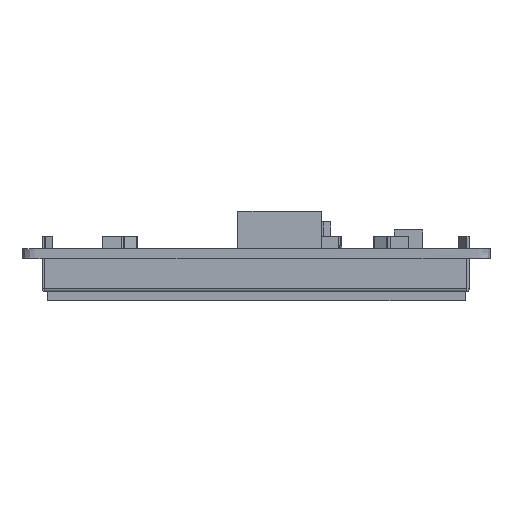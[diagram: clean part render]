
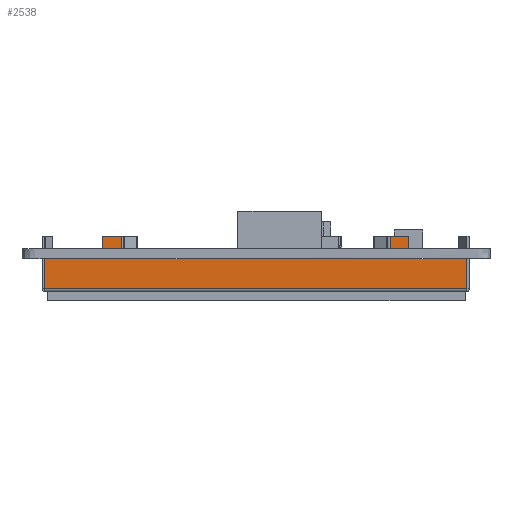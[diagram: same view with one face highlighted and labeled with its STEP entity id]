
A CAD part, left-side view. The second image highlights one B-rep face of the part: STEP entity #2538.
In plain terms, the highlighted planar face has unit normal (-1, 0, 0).
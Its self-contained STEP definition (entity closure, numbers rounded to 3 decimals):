
#2538=ADVANCED_FACE('',(#4645),#3493,.F.);
#3493=PLANE('',#25617);
#4645=FACE_OUTER_BOUND('',#5844,.T.);
#5844=EDGE_LOOP('',(#11681,#11682,#11683,#11684,#11685,#11686,#11687,#11688,
#11689,#11690,#11691,#11692,#11693,#11694,#11695,#11696));
#11681=ORIENTED_EDGE('',*,*,#17913,.T.);
#11682=ORIENTED_EDGE('',*,*,#17914,.F.);
#11683=ORIENTED_EDGE('',*,*,#17915,.F.);
#11684=ORIENTED_EDGE('',*,*,#17916,.T.);
#11685=ORIENTED_EDGE('',*,*,#17917,.T.);
#11686=ORIENTED_EDGE('',*,*,#17918,.T.);
#11687=ORIENTED_EDGE('',*,*,#17911,.T.);
#11688=ORIENTED_EDGE('',*,*,#17919,.F.);
#11689=ORIENTED_EDGE('',*,*,#17920,.T.);
#11690=ORIENTED_EDGE('',*,*,#17921,.F.);
#11691=ORIENTED_EDGE('',*,*,#17922,.F.);
#11692=ORIENTED_EDGE('',*,*,#17923,.T.);
#11693=ORIENTED_EDGE('',*,*,#17905,.T.);
#11694=ORIENTED_EDGE('',*,*,#17924,.F.);
#11695=ORIENTED_EDGE('',*,*,#17925,.F.);
#11696=ORIENTED_EDGE('',*,*,#17926,.T.);
#14716=VERTEX_POINT('',#37798);
#14717=VERTEX_POINT('',#37799);
#14722=VERTEX_POINT('',#37810);
#14723=VERTEX_POINT('',#37812);
#14724=VERTEX_POINT('',#37816);
#14725=VERTEX_POINT('',#37817);
#14726=VERTEX_POINT('',#37819);
#14727=VERTEX_POINT('',#37821);
#14728=VERTEX_POINT('',#37823);
#14729=VERTEX_POINT('',#37825);
#14730=VERTEX_POINT('',#37828);
#14731=VERTEX_POINT('',#37830);
#14732=VERTEX_POINT('',#37832);
#14733=VERTEX_POINT('',#37834);
#14734=VERTEX_POINT('',#37837);
#14735=VERTEX_POINT('',#37839);
#17905=EDGE_CURVE('',#14716,#14717,#20806,.T.);
#17911=EDGE_CURVE('',#14723,#14722,#20812,.T.);
#17913=EDGE_CURVE('',#14724,#14725,#20814,.T.);
#17914=EDGE_CURVE('',#14726,#14725,#20815,.T.);
#17915=EDGE_CURVE('',#14727,#14726,#20816,.T.);
#17916=EDGE_CURVE('',#14727,#14728,#20817,.T.);
#17917=EDGE_CURVE('',#14728,#14729,#20818,.T.);
#17918=EDGE_CURVE('',#14729,#14723,#20819,.T.);
#17919=EDGE_CURVE('',#14730,#14722,#20820,.T.);
#17920=EDGE_CURVE('',#14730,#14731,#20821,.T.);
#17921=EDGE_CURVE('',#14732,#14731,#20822,.T.);
#17922=EDGE_CURVE('',#14733,#14732,#20823,.T.);
#17923=EDGE_CURVE('',#14733,#14716,#20824,.T.);
#17924=EDGE_CURVE('',#14734,#14717,#20825,.T.);
#17925=EDGE_CURVE('',#14735,#14734,#20826,.T.);
#17926=EDGE_CURVE('',#14735,#14724,#20827,.T.);
#20806=LINE('',#37797,#23622);
#20812=LINE('',#37811,#23628);
#20814=LINE('',#37815,#23630);
#20815=LINE('',#37818,#23631);
#20816=LINE('',#37820,#23632);
#20817=LINE('',#37822,#23633);
#20818=LINE('',#37824,#23634);
#20819=LINE('',#37826,#23635);
#20820=LINE('',#37827,#23636);
#20821=LINE('',#37829,#23637);
#20822=LINE('',#37831,#23638);
#20823=LINE('',#37833,#23639);
#20824=LINE('',#37835,#23640);
#20825=LINE('',#37836,#23641);
#20826=LINE('',#37838,#23642);
#20827=LINE('',#37840,#23643);
#23622=VECTOR('',#31099,1.);
#23628=VECTOR('',#31107,1.);
#23630=VECTOR('',#31111,1.);
#23631=VECTOR('',#31112,1.);
#23632=VECTOR('',#31113,1.);
#23633=VECTOR('',#31114,1.);
#23634=VECTOR('',#31115,1.);
#23635=VECTOR('',#31116,1.);
#23636=VECTOR('',#31117,1.);
#23637=VECTOR('',#31118,1.);
#23638=VECTOR('',#31119,1.);
#23639=VECTOR('',#31120,1.);
#23640=VECTOR('',#31121,1.);
#23641=VECTOR('',#31122,1.);
#23642=VECTOR('',#31123,1.);
#23643=VECTOR('',#31124,1.);
#25617=AXIS2_PLACEMENT_3D('',#37841,#31125,#31126);
#31099=DIRECTION('',(0.,1.,0.));
#31107=DIRECTION('',(0.,1.,0.));
#31111=DIRECTION('',(0.,1.,0.));
#31112=DIRECTION('',(0.,0.,-1.));
#31113=DIRECTION('',(0.,-1.,0.));
#31114=DIRECTION('',(0.,0.,-1.));
#31115=DIRECTION('',(0.,1.,0.));
#31116=DIRECTION('',(0.,0.,-1.));
#31117=DIRECTION('',(0.,0.,-1.));
#31118=DIRECTION('',(0.,-1.,0.));
#31119=DIRECTION('',(0.,0.,-1.));
#31120=DIRECTION('',(0.,-1.,0.));
#31121=DIRECTION('',(0.,0.,-1.));
#31122=DIRECTION('',(0.,0.,1.));
#31123=DIRECTION('',(0.,1.,0.));
#31124=DIRECTION('',(0.,0.,1.));
#31125=DIRECTION('',(1.,0.,0.));
#31126=DIRECTION('',(0.,-1.,0.));
#37797=CARTESIAN_POINT('',(67.65,-14.395,-1.6));
#37798=CARTESIAN_POINT('',(67.65,43.765,-1.6));
#37799=CARTESIAN_POINT('',(67.65,53.005,-1.6));
#37810=CARTESIAN_POINT('',(67.65,40.765,-1.6));
#37811=CARTESIAN_POINT('',(67.65,-14.395,-1.6));
#37812=CARTESIAN_POINT('',(67.65,-2.155,-1.6));
#37815=CARTESIAN_POINT('',(67.65,-14.395,-1.6));
#37816=CARTESIAN_POINT('',(67.65,-14.395,-1.6));
#37817=CARTESIAN_POINT('',(67.65,-5.155,-1.6));
#37818=CARTESIAN_POINT('',(67.65,-5.155,0.));
#37819=CARTESIAN_POINT('',(67.65,-5.155,2.));
#37820=CARTESIAN_POINT('',(67.65,-2.19,2.));
#37821=CARTESIAN_POINT('',(67.65,-2.19,2.));
#37822=CARTESIAN_POINT('',(67.65,-2.19,2.));
#37823=CARTESIAN_POINT('',(67.65,-2.19,0.));
#37824=CARTESIAN_POINT('',(67.65,-5.155,0.));
#37825=CARTESIAN_POINT('',(67.65,-2.155,0.));
#37826=CARTESIAN_POINT('',(67.65,-2.155,0.));
#37827=CARTESIAN_POINT('',(67.65,40.765,0.));
#37828=CARTESIAN_POINT('',(67.65,40.765,0.));
#37829=CARTESIAN_POINT('',(67.65,43.765,0.));
#37830=CARTESIAN_POINT('',(67.65,40.754,0.));
#37831=CARTESIAN_POINT('',(67.65,40.754,2.));
#37832=CARTESIAN_POINT('',(67.65,40.754,2.));
#37833=CARTESIAN_POINT('',(67.65,43.765,2.));
#37834=CARTESIAN_POINT('',(67.65,43.765,2.));
#37835=CARTESIAN_POINT('',(67.65,43.765,0.));
#37836=CARTESIAN_POINT('',(67.65,53.005,-6.4));
#37837=CARTESIAN_POINT('',(67.65,53.005,-6.4));
#37838=CARTESIAN_POINT('',(67.65,-14.395,-6.4));
#37839=CARTESIAN_POINT('',(67.65,-14.395,-6.4));
#37840=CARTESIAN_POINT('',(67.65,-14.395,-6.4));
#37841=CARTESIAN_POINT('',(67.65,-14.395,-6.4));
